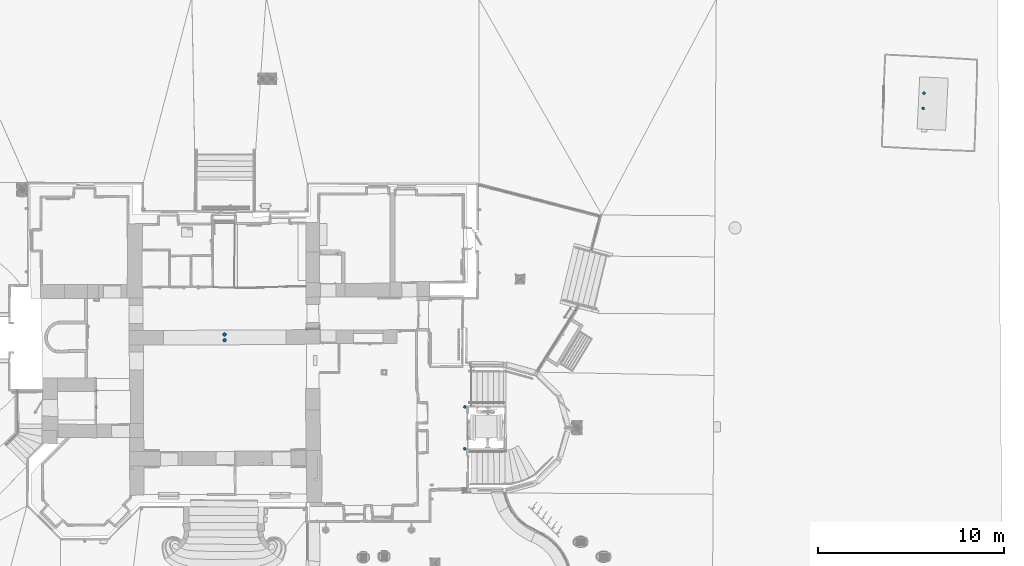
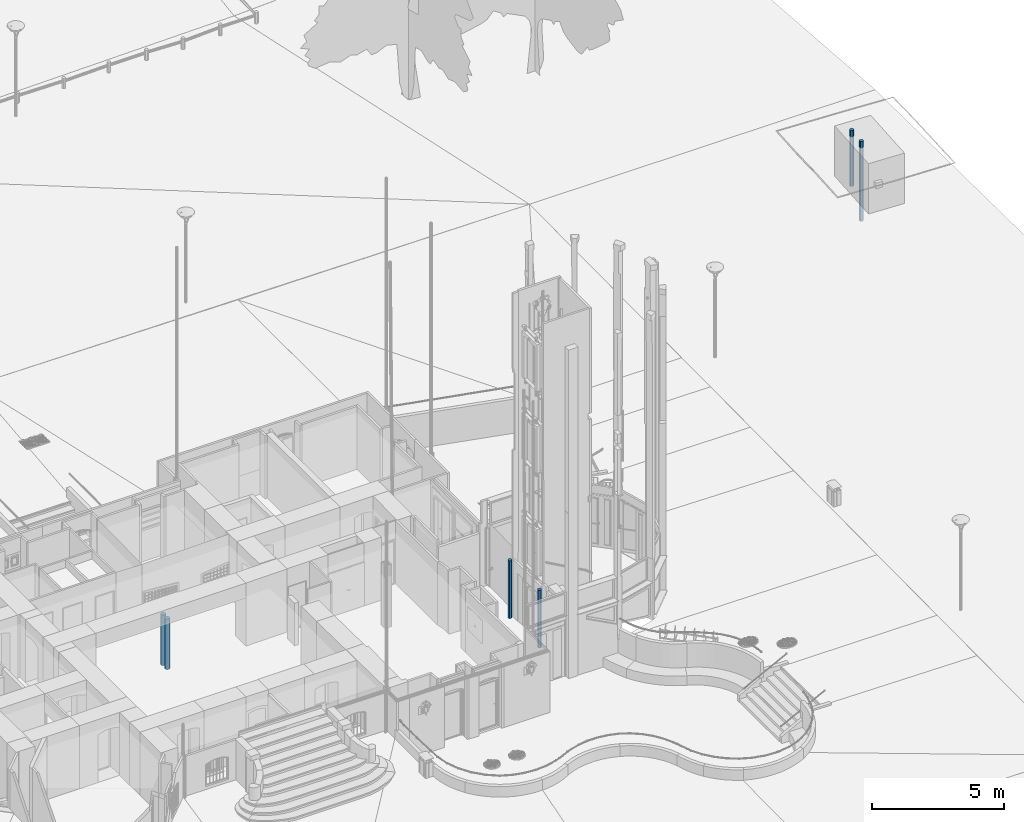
# One storey, part 1 of 133: 6 columns.
"""IFC2X3 building model written with IfcOpenShell, lengths in centimetres."""

from ifc_helpers import new_model, entity, si_unit, converted_unit, direction, frame, origin, origin_with_axes, origin_2d_with_axis, place, context, subcontext, project, spatial, circle, extrude, source, transform, mapped, material, type_object, element, save


model = new_model("IFC2X3")

# Units and contexts
model_context = context("Model", 3, precision=0.0001, world=origin(), true_north=direction((0.225632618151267, 0.974212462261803, 0.0)))
body_context = subcontext(model_context, "Body", "Model", "MODEL_VIEW")
ifc_project = project(units=[si_unit("LENGTHUNIT", "METRE", prefix="CENTI"), si_unit("AREAUNIT", "SQUARE_METRE", prefix="CENTI"), si_unit("VOLUMEUNIT", "CUBIC_METRE", prefix="CENTI"), converted_unit("PLANEANGLEUNIT", "DEGREE", entity("IfcRatioMeasure", 0.0174532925), si_unit("PLANEANGLEUNIT", "RADIAN"), dimensions=[0, 0, 0, 0, 0, 0, 0])], contexts=[model_context])

# Site, building, storey
site_placement = place(None, origin_with_axes())
site = spatial("IfcSite", under=ifc_project, at=site_placement, Name="Default Site", CompositionType="ELEMENT")
building_placement = place(site_placement, origin_with_axes())
building = spatial("IfcBuilding", under=site, at=building_placement, Name="Default Building", CompositionType="ELEMENT")
storey_placement = place(building_placement, frame((0.0, 0.0, -291.400371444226), z_axis=(0.0, 0.0, 1.0), x_axis=(1.0, 0.0, 0.0)))
storey = spatial("IfcBuildingStorey", under=building, at=storey_placement, Name="Rez-de-Jardin", CompositionType="ELEMENT", Elevation=-291.400371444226)

# Columns
ifc_material_1 = material(Name="Aluminium mat")
column_type_1 = type_object("IfcColumnType", Name="RND 160", PredefinedType="USERDEFINED", material=ifc_material_1)
shared_shape_1 = source(origin_with_axes(), body_context, "Body", "SweptSolid", [
    extrude(circle(Radius=8.0, at=origin_2d_with_axis()), origin_with_axes(), (0.0, 0.0, 1.0), 100.0),
])
column_1_placement = place(storey_placement, frame((3555.42592886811, 1251.12311016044, 110.0), z_axis=(0.0, 0.0, 1.0), x_axis=(1.0, 0.0, 0.0)))
element("IfcColumn", 1, at=column_1_placement, inside=storey, type_object=column_type_1, material=ifc_material_1, Name="Poteau Acier 1824237", ObjectType="column", context=body_context, shape_type="MappedRepresentation", body=[
    mapped(shared_shape_1, transform((0.0, 0.0, 2.22044604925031e-14), x_axis=(1.0, 0.0, 0.0), y_axis=(0.0, 1.0, 0.0), z_axis=(0.0, 0.0, 1.0), scale=1.0, scale2=1.0, scale3=2.5919572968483, uniform=False)),
])
column_2_placement = place(storey_placement, frame((3550.71663722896, 1169.81223361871, 0.0), z_axis=(0.0, 0.0, 1.0), x_axis=(1.0, 0.0, 0.0)))
element("IfcColumn", 2, at=column_2_placement, inside=storey, type_object=column_type_1, material=ifc_material_1, Name="Poteau Acier 1824240", ObjectType="column", context=body_context, shape_type="MappedRepresentation", body=[
    mapped(shared_shape_1, transform((0.0, 0.0, 0.0), x_axis=(1.0, 0.0, 0.0), y_axis=(0.0, 1.0, 0.0), z_axis=(0.0, 0.0, 1.0), scale=1.0, scale2=1.0, scale3=3.6919572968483, uniform=False)),
])
for number, where, z_axis, x_axis, name in (
    (3, (1085.46227092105, -435.971573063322, 0.0), (0.0, 0.0, 1.0), (1.0, 0.0, 0.0), "Poteau Acier 574853"),
    (4, (1085.49880625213, -661.356574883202, 0.0), (0.0, 0.0, 1.0), (1.0, 0.0, 0.0), "Poteau Acier 574856"),
):
    element("IfcColumn", number, at=place(storey_placement, frame(where, z_axis=z_axis, x_axis=x_axis)), inside=storey, type_object=column_type_1, material=ifc_material_1, Name=name, ObjectType="column", context=body_context, shape_type="MappedRepresentation", body=[
        mapped(shared_shape_1, transform((0.0, 0.0, 0.0), x_axis=(1.0, 0.0, 0.0), y_axis=(0.0, 1.0, 0.0), z_axis=(0.0, 0.0, 1.0), scale=1.0, scale2=1.0, scale3=2.66400371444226, uniform=False)),
    ])
ifc_material_2 = material(Name="Bleu france")
column_type_2 = type_object("IfcColumnType", Name="RND 200", PredefinedType="USERDEFINED", material=ifc_material_2)
shared_shape_2 = source(origin_with_axes(), body_context, "Body", "SweptSolid", [
    extrude(circle(Radius=10.0, at=origin_2d_with_axis()), origin_with_axes(), (0.0, 0.0, 1.0), 100.0),
])
column_3_placement = place(storey_placement, frame((-206.83149125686, -46.5425041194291, 0.0), z_axis=(0.0, 0.0, 1.0), x_axis=(1.0, 0.0, 0.0)))
element("IfcColumn", 5, at=column_3_placement, inside=storey, type_object=column_type_2, material=ifc_material_2, Name="Poteau Acier 69972", ObjectType="column", context=body_context, shape_type="MappedRepresentation", body=[
    mapped(shared_shape_2, transform((0.0, 0.0, 0.0), x_axis=(1.0, 0.0, 0.0), y_axis=(0.0, 1.0, 0.0), z_axis=(0.0, 0.0, 1.0), scale=1.0, scale2=1.0, scale3=2.33400371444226, uniform=False)),
])
column_4_placement = place(storey_placement, frame((-206.560440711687, -76.8329448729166, 0.0), z_axis=(0.0, 0.0, 1.0), x_axis=(1.0, 0.0, 0.0)))
element("IfcColumn", 6, at=column_4_placement, inside=storey, type_object=column_type_2, material=ifc_material_2, Name="Poteau Acier 69975", ObjectType="column", context=body_context, shape_type="MappedRepresentation", body=[
    mapped(shared_shape_2, transform((0.0, 1.11022302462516e-14, 0.0), x_axis=(1.0, 0.0, 0.0), y_axis=(0.0, 1.0, 0.0), z_axis=(0.0, 0.0, 1.0), scale=1.0, scale2=1.0, scale3=2.33400371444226, uniform=False)),
])

save(model, "model.ifc")
